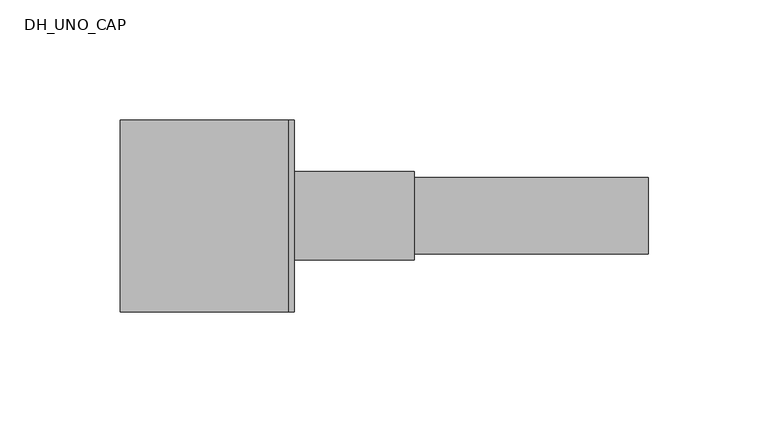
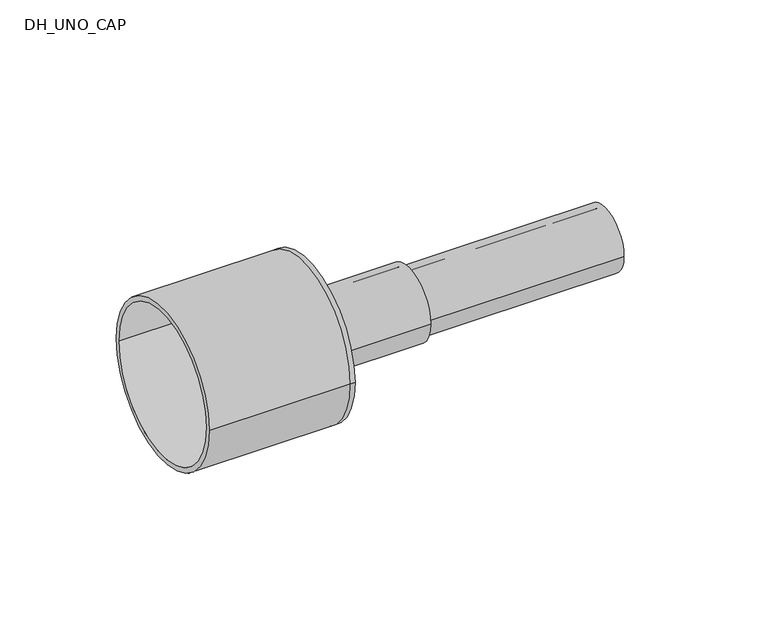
"""IFC4 building model written with IfcOpenShell, lengths in millimetres: pipe fitting geometry, DH_UNO_CAP : INSULPEX UNO 11 COOL - Rubber Cap."""

from ifc_helpers import new_model, si_unit, point, frame, origin, origin_2d, place, context, project, spatial, polyline, circle_curve, trimmed, segment, composite_curve, outline, extrude, source, transform, mapped, element, save
from ifc_brep_helpers import plane_surface, cylinder_surface, revolved_surface, advanced_brep


def dh_uno_cap_8e0573e4(model_context):
    return source(origin(), model_context, "Body", "SolidModel", [
        extrude(outline(composite_curve([segment(trimmed(circle_curve(origin_2d(), 16.0), [point((-16.0, 0.0))], [point((16.0, 0.0))], False, "CARTESIAN"), True, "CONTINUOUS"), segment(trimmed(circle_curve(origin_2d(), 16.0), [point((16.0, 0.0))], [point((-16.0, 0.0))], False, "CARTESIAN"), True, "CONTINUOUS")], self_intersect=False), holes=[composite_curve([segment(trimmed(circle_curve(origin_2d(), 13.1), [point((-13.1, 0.0))], [point((13.1, 0.0))], True, "CARTESIAN"), True, "CONTINUOUS"), segment(trimmed(circle_curve(origin_2d(), 13.1), [point((13.1, 0.0))], [point((-13.1, 0.0))], True, "CARTESIAN"), True, "CONTINUOUS")], self_intersect=False)]), frame((0.0, 0.0, 0.0), z_axis=(1.0, 0.0, 0.0), x_axis=(0.0, 1.0, 0.0)), (0.0, 0.0, 1.0), 150.0),
        advanced_brep(
        [(-70.0, -40.0, 0.0), (-70.0, 40.0, 0.0), (-70.0, -37.5, 0.0), (-70.0, 37.5, 0.0), (0.0, -37.5, 0.0), (0.0, 37.5, 0.0), (0.0, -40.0, 0.0), (0.0, 40.0, 0.0), (0.0, 16.0, 0.0), (0.0, -16.0, 0.0), (2.5, -40.0, 0.0), (2.5, 40.0, 0.0), (2.5, -16.0, 0.0), (2.5, 16.0, 0.0)],
        [
            (0, 1, circle_curve(frame((-70.0, 0.0, 0.0), z_axis=(-1.0, 0.0, 0.0), x_axis=(0.0, 1.0, 0.0)), 40.0)),
            (1, 0, circle_curve(frame((-70.0, 0.0, 0.0), z_axis=(-1.0, 0.0, 0.0), x_axis=(0.0, 1.0, 0.0)), 40.0)),
            (2, 3, circle_curve(frame((-70.0, 0.0, 0.0), z_axis=(1.0, 0.0, 0.0), x_axis=(0.0, 1.0, 0.0)), 37.5)),
            (3, 2, circle_curve(frame((-70.0, 0.0, 0.0), z_axis=(1.0, 0.0, 0.0), x_axis=(0.0, 1.0, 0.0)), 37.5)),
            (2, 4),
            (4, 5, circle_curve(frame((0.0, 0.0, 0.0), z_axis=(1.0, 0.0, 0.0), x_axis=(0.0, 1.0, 0.0)), 37.5)),
            (5, 3),
            (5, 4, circle_curve(frame((0.0, 0.0, 0.0), z_axis=(1.0, 0.0, 0.0), x_axis=(0.0, 1.0, 0.0)), 37.5)),
            (0, 6),
            (6, 7, circle_curve(frame((0.0, 0.0, 0.0), z_axis=(-1.0, 0.0, 0.0), x_axis=(0.0, 1.0, 0.0)), 40.0)),
            (7, 1),
            (7, 6, circle_curve(frame((0.0, 0.0, 0.0), z_axis=(-1.0, 0.0, 0.0), x_axis=(0.0, 1.0, 0.0)), 40.0)),
            (8, 9, circle_curve(frame((0.0, 0.0, 0.0), z_axis=(1.0, 0.0, 0.0), x_axis=(0.0, 1.0, 0.0)), 16.0)),
            (9, 8, circle_curve(frame((0.0, 0.0, 0.0), z_axis=(1.0, 0.0, 0.0), x_axis=(0.0, 1.0, 0.0)), 16.0)),
            (10, 11, circle_curve(frame((2.5, 0.0, 0.0), z_axis=(1.0, 0.0, 0.0), x_axis=(0.0, 1.0, 0.0)), 40.0)),
            (11, 10, circle_curve(frame((2.5, 0.0, 0.0), z_axis=(1.0, 0.0, 0.0), x_axis=(0.0, 1.0, 0.0)), 40.0)),
            (12, 13, circle_curve(frame((2.5, 0.0, 0.0), z_axis=(-1.0, 0.0, 0.0), x_axis=(0.0, 1.0, 0.0)), 16.0)),
            (13, 12, circle_curve(frame((2.5, 0.0, 0.0), z_axis=(-1.0, 0.0, 0.0), x_axis=(0.0, 1.0, 0.0)), 16.0)),
            (11, 7),
            (6, 10),
            (8, 13),
            (12, 9),
        ],
        [
            plane_surface(frame((-70.0, 0.0, 0.0), z_axis=(-1.0, 0.0, 0.0), x_axis=(0.0, 0.0, 1.0))),
            revolved_surface(polyline([(0.0, 37.5, 0.0), (-70.0, 37.5, 0.0)]), (-70.0, 0.0, 0.0), (1.0, 0.0, 0.0)),
            cylinder_surface(frame((-70.0, 0.0, 0.0), z_axis=(-1.0, 0.0, 0.0), x_axis=(0.0, 1.0, 0.0)), 40.0),
            plane_surface(frame((0.0, 0.0, 0.0), z_axis=(-1.0, 0.0, 0.0), x_axis=(0.0, 0.0, 1.0))),
            plane_surface(frame((2.5, 0.0, 0.0), z_axis=(1.0, 0.0, 0.0), x_axis=(0.0, 0.0, 1.0))),
            cylinder_surface(frame((0.0, 0.0, 0.0), z_axis=(-1.0, 0.0, 0.0), x_axis=(0.0, 1.0, 0.0)), 40.0),
            revolved_surface(polyline([(0.0, 16.0, 0.0), (2.5, 16.0, 0.0)]), (0.0, 0.0, 0.0), (-1.0, 0.0, 0.0)),
        ],
        [
            (0, [[1, 2], [3, 4]]),
            (1, [[-3, 5, 6, 7]]),
            (1, [[-4, -7, 8, -5]]),
            (2, [[-1, 9, 10, 11]]),
            (2, [[-2, -11, 12, -9]]),
            (3, [[-6, -8], [13, 14]]),
            (4, [[15, 16], [17, 18]]),
            (5, [[-16, 19, -10, 20]]),
            (5, [[-15, -20, -12, -19]]),
            (6, [[21, -17, 22, -13]]),
            (6, [[-21, -14, -22, -18]]),
        ],
    ),
        extrude(outline(composite_curve([segment(trimmed(circle_curve(origin_2d(), 18.5), [point((-18.5, 0.0))], [point((18.5, 0.0))], False, "CARTESIAN"), True, "CONTINUOUS"), segment(trimmed(circle_curve(origin_2d(), 18.5), [point((18.5, 0.0))], [point((-18.5, 0.0))], False, "CARTESIAN"), True, "CONTINUOUS")], self_intersect=False), holes=[composite_curve([segment(trimmed(circle_curve(origin_2d(), 16.0), [point((-16.0, 0.0))], [point((16.0, 0.0))], True, "CARTESIAN"), True, "CONTINUOUS"), segment(trimmed(circle_curve(origin_2d(), 16.0), [point((16.0, 0.0))], [point((-16.0, 0.0))], True, "CARTESIAN"), True, "CONTINUOUS")], self_intersect=False)]), frame((2.5, 0.0, 0.0), z_axis=(1.0, 0.0, 0.0), x_axis=(0.0, 1.0, 0.0)), (0.0, 0.0, 1.0), 50.0),
    ])


if __name__ == "__main__":
    model = new_model("IFC4")
    model_context = context("Model", 3, world=origin())
    ifc_project = project(units=[si_unit("LENGTHUNIT", "METRE", prefix="MILLI")], contexts=[model_context])
    site = spatial("IfcSite", under=ifc_project)
    building = spatial("IfcBuilding", under=site)
    placement = place(None, origin())
    dh_uno_cap_shape = dh_uno_cap_8e0573e4(model_context)
    element("IfcPipeFitting", 1, ObjectType="DH_UNO_CAP : INSULPEX UNO 11 COOL - Rubber Cap", at=placement, inside=building, context=model_context, shape_type="MappedRepresentation", body=[
        mapped(dh_uno_cap_shape, transform((0.0, 0.0, 0.0), x_axis=(1.0, 0.0, 0.0), y_axis=(0.0, 1.0, 0.0), z_axis=(0.0, 0.0, 1.0))),
    ])
    save(model, "model.ifc")
